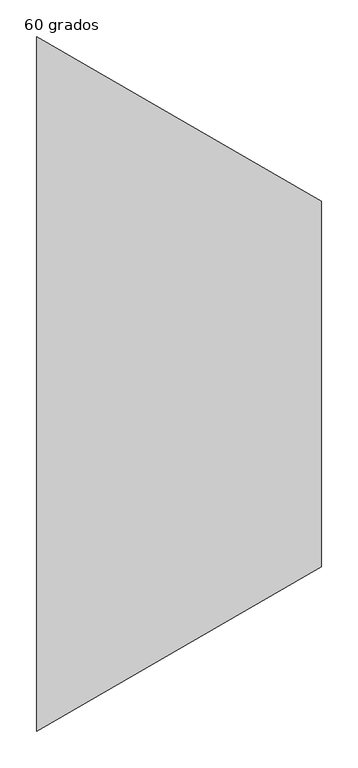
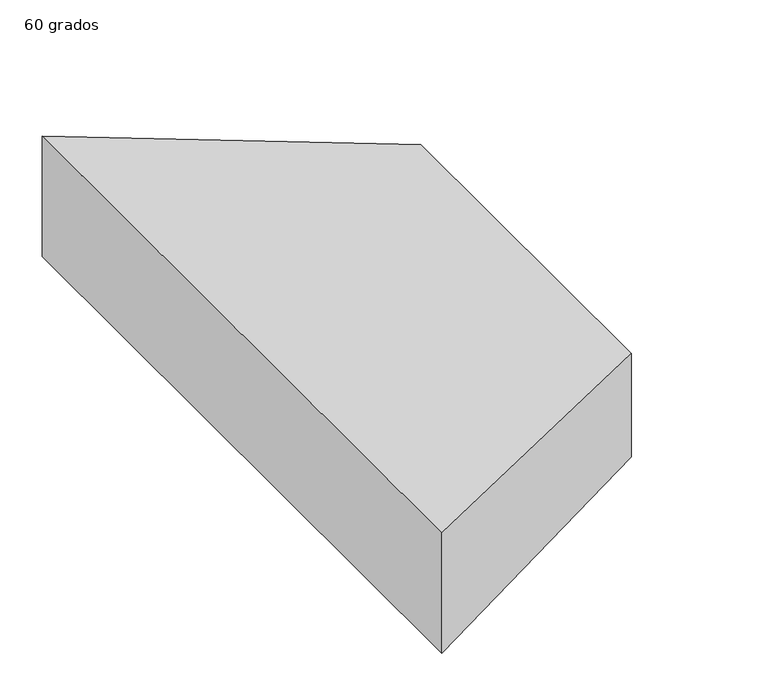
"""IFC4 building model written with IfcOpenShell, lengths in millimetres: duct fitting geometry, M_Transición rectangular - Ángulo : 60 grados."""

from ifc_helpers import new_model, si_unit, origin, place, context, project, spatial, faceted_brep, source, transform, mapped, element, save


def duct_fitting_60_grados_2f0d7716(model_context):
    return source(origin(), model_context, "Body", "Brep", [
        faceted_brep([(389.7114317, -250.0, 75.0), (389.7114317, -250.0, -75.0), (389.7114317, 250.0, -75.0), (389.7114317, 250.0, 75.0), (0.0, -475.0, 87.5), (0.0, 475.0, 87.5), (0.0, 475.0, -87.5), (0.0, -475.0, -87.5)], [[[0, 1, 2, 3]], [[4, 5, 6, 7]], [[4, 7, 1, 0]], [[7, 6, 2, 1]], [[6, 5, 3, 2]], [[5, 4, 0, 3]]]),
    ])


if __name__ == "__main__":
    model = new_model("IFC4")
    model_context = context("Model", 3, world=origin())
    ifc_project = project(units=[si_unit("LENGTHUNIT", "METRE", prefix="MILLI")], contexts=[model_context])
    site = spatial("IfcSite", under=ifc_project)
    building = spatial("IfcBuilding", under=site)
    placement = place(None, origin())
    duct_fitting_60_grados_shape = duct_fitting_60_grados_2f0d7716(model_context)
    element("IfcDuctFitting", 1, ObjectType="M_Transición rectangular - Ángulo : 60 grados", at=placement, inside=building, context=model_context, shape_type="MappedRepresentation", body=[
        mapped(duct_fitting_60_grados_shape, transform((0.0, 0.0, 0.0), x_axis=(1.0, 0.0, 0.0), y_axis=(0.0, 1.0, 0.0), z_axis=(0.0, 0.0, 1.0))),
    ])
    save(model, "model.ifc")
